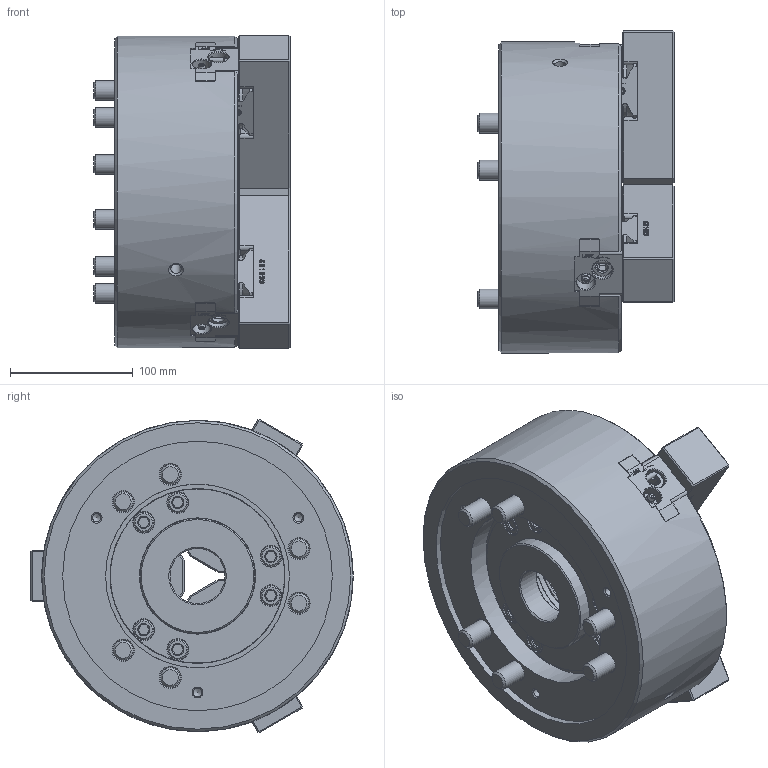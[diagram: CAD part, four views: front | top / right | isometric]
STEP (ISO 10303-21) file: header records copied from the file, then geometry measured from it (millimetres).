
FILE_DESCRIPTION (( 'STEP AP214' ), '1' );
FILE_NAME ('DT1_QB310_OUTSIDE_VIEW_HUL.STEP', '2024-05-16T00:57:19', ( '' ), ( '' ), 'SwSTEP 2.0', 'SolidWorks 2022', '' );
FILE_SCHEMA (( 'AUTOMOTIVE_DESIGN' ));
Length unit declared in the file: millimetre
Products named in the file (7): DT1_QB310_DRAWNUT^DT1_QB310_ﾃﾞﾌｫﾙﾄ; DT1_QB310_BASE^DT1_QB310_ﾃﾞﾌｫﾙﾄ; DT1_QB310_COVER^DT1_QB310_ﾃﾞﾌｫﾙﾄ; DT1_QB310_OUTSIDE_VIEW_HUL; DT1_QB310_M16x100^DT1_QB310_ﾃﾞﾌｫﾙﾄ; DT1_QB310_M6x10^DT1_QB310_ﾃﾞﾌｫﾙﾄ; DT1_QB310_SOFTJAW^DT1_QB310_ﾃﾞﾌｫﾙﾄ
Assembly tree (15 placements, depth 2):
  DT1_QB310_OUTSIDE_VIEW_HUL
    DT1_QB310_SOFTJAW^DT1_QB310_ﾃﾞﾌｫﾙﾄ  x3
    DT1_QB310_DRAWNUT^DT1_QB310_ﾃﾞﾌｫﾙﾄ
    DT1_QB310_COVER^DT1_QB310_ﾃﾞﾌｫﾙﾄ
    DT1_QB310_M6x10^DT1_QB310_ﾃﾞﾌｫﾙﾄ  x3
    DT1_QB310_M16x100^DT1_QB310_ﾃﾞﾌｫﾙﾄ  x6
    DT1_QB310_BASE^DT1_QB310_ﾃﾞﾌｫﾙﾄ
Bounding box: 160 x 262.98 x 255.52 mm (x, y, z)
Volume: 4947183.4 mm3; surface area: 465488.9 mm2
Topology: 15 solids, 18 shells, 2312 faces, 6011 edges, 3898 vertices
Faces by surface type: plane 1214, bspline 510, cylinder 282, cone 258, torus 42, sphere 6
Full cylindrical faces by diameter (mm): 2 x3, 4.5 x3, 5 x9, 6 x6, 6.6 x3, 6.8 x3, 8 x3, 8.5 x2, 10 x3, 10.001 x9, 10.5 x3, 11 x3, 13 x6, 15 x3, 16 x6, 16.27 x6, 16.3 x3, 16.5 x3, 16.7 x3, 17 x12, 18 x6, 24.33 x6, 25 x6, 45 x1, 75 x2, 79 x2, 80 x2, 86 x1, 94 x2, 142.7 x1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
Entity records: 69919 total; most frequent: CARTESIAN_POINT 29507, ORIENTED_EDGE 8794, DIRECTION 6913, EDGE_CURVE 4397, VERTEX_POINT 2970, LINE 2395, VECTOR 2395, AXIS2_PLACEMENT_3D 2259
